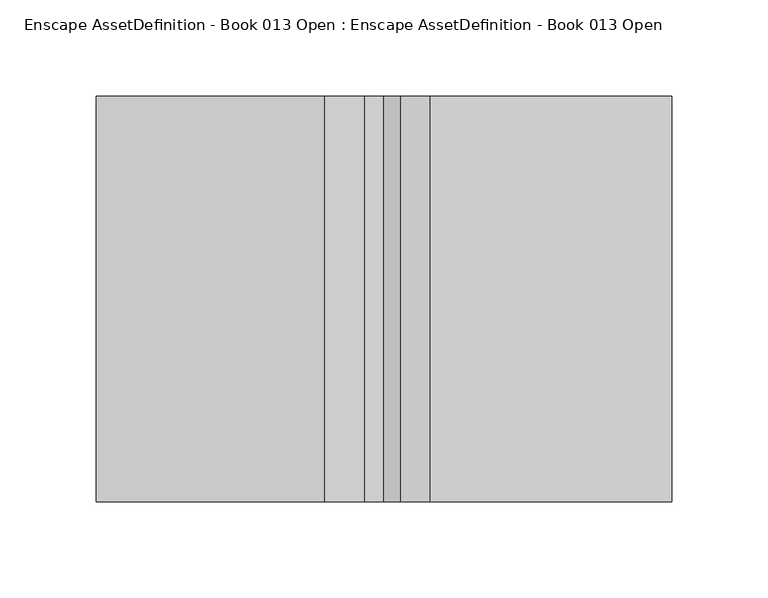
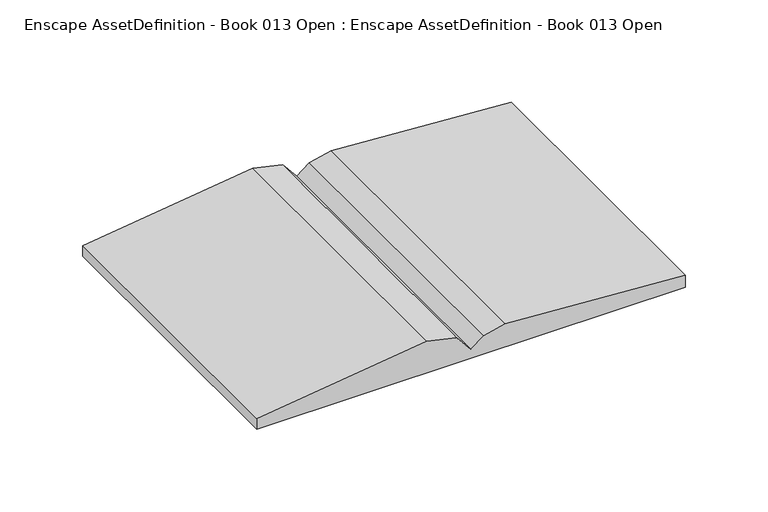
"""IFC4 building model written with IfcOpenShell, lengths in millimetres: geographic element geometry, Enscape AssetDefinition - Book 013 Open : Enscape AssetDefinition - Book 013 Open."""

from ifc_helpers import new_model, si_unit, origin, place, context, project, spatial, triangles, source, transform, mapped, element, save


def enscape_assetdefinition_book_013_open_enscape_fd92b1af(model_context):
    return source(origin(), model_context, "Body", "Tessellation", [
        triangles([(-149.2999985, 105.0380018, 0.0), (-149.2999985, -105.1490052, 0.0), (-149.2999985, -105.1490052, 7.6239998), (-149.2999985, 105.0380018, 7.6239998), (-30.8939991, -105.1490052, 23.1299994), (-0.178, 105.0380018, 0.0), (-10.0229994, 105.0380018, 18.3910002), (-30.8939991, 105.0380018, 23.1299994), (-0.178, -105.1490052, 0.0), (-10.0229994, -105.1490052, 18.3910002), (-0.178, -105.1490052, 6.591), (-0.178, 105.0380018, 6.591), (8.5979996, -105.1490052, 13.5759996), (8.5979996, 105.0380018, 13.5759996), (23.8710016, -105.1490052, 16.8639995), (23.8710016, 105.0380018, 16.8639995), (149.1000016, -105.1490052, 0.0), (149.1000016, 105.0380018, 0.0), (149.1000016, 105.0380018, 8.8130005), (149.1000016, -105.1490052, 8.8130005)], [[18, 6, 19], [6, 16, 19], [20, 19, 16], [17, 18, 19], [17, 19, 20], [18, 17, 9], [6, 18, 9], [17, 20, 15], [9, 17, 15], [15, 20, 16], [15, 16, 14], [6, 14, 16], [9, 15, 13], [13, 15, 14], [13, 14, 12], [6, 12, 14], [9, 13, 11], [11, 13, 12], [11, 12, 7], [6, 7, 12], [9, 11, 10], [10, 11, 7], [9, 10, 5], [10, 7, 8], [6, 8, 7], [5, 10, 8], [5, 8, 4], [9, 5, 3], [3, 5, 4], [1, 4, 8], [1, 6, 9], [6, 1, 8], [1, 3, 4], [1, 2, 3], [2, 9, 3], [2, 1, 9]]),
    ])


if __name__ == "__main__":
    model = new_model("IFC4")
    model_context = context("Model", 3, world=origin())
    ifc_project = project(units=[si_unit("LENGTHUNIT", "METRE", prefix="MILLI")], contexts=[model_context])
    site = spatial("IfcSite", under=ifc_project)
    building = spatial("IfcBuilding", under=site)
    placement = place(None, origin())
    enscape_assetdefinition_book_013_open_enscape_shape = enscape_assetdefinition_book_013_open_enscape_fd92b1af(model_context)
    element("IfcGeographicElement", 1, ObjectType="Enscape AssetDefinition - Book 013 Open : Enscape AssetDefinition - Book 013 Open", at=placement, inside=building, context=model_context, shape_type="MappedRepresentation", body=[
        mapped(enscape_assetdefinition_book_013_open_enscape_shape, transform((0.0, 0.0, 0.0), x_axis=(1.0, 0.0, 0.0), y_axis=(0.0, 1.0, 0.0), z_axis=(0.0, 0.0, 1.0))),
    ])
    save(model, "model.ifc")
